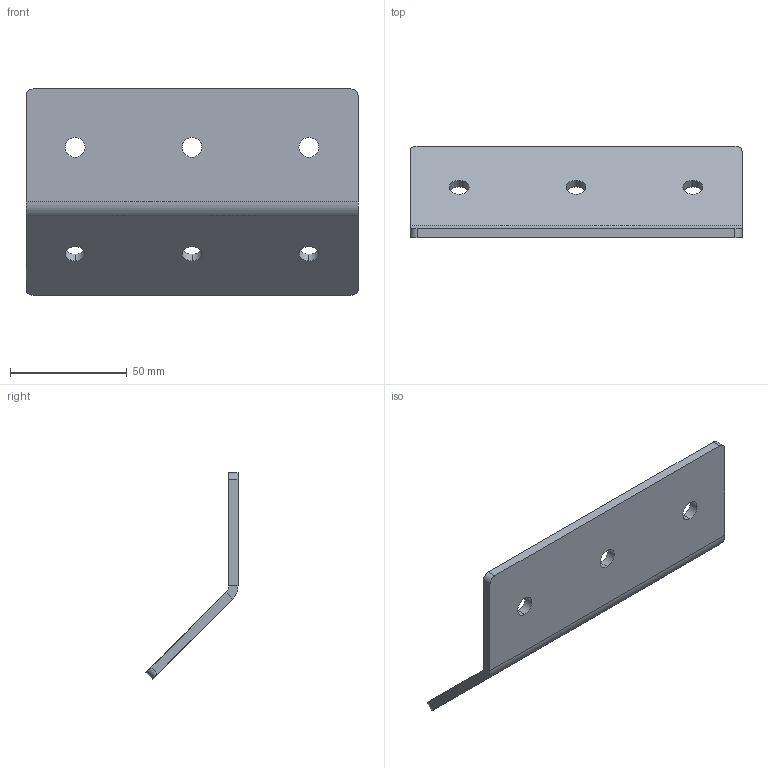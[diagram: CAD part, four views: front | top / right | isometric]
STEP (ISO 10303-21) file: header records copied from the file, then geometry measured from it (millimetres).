
FILE_DESCRIPTION (( 'STEP AP214' ), '1' );
FILE_NAME ('8450150s.STEP', '2022-06-13T12:32:44', ( 'Home' ), ( '' ), 'SwSTEP 2.0', 'SolidWorks 2020', '' );
FILE_SCHEMA (( 'AUTOMOTIVE_DESIGN' ));
Length unit declared in the file: millimetre
Products named in the file (1): 8450150s
Bounding box: 142 x 39.36 x 88.18 mm (x, y, z)
Volume: 56201.7 mm3; surface area: 30668.3 mm2
Topology: 1 solids, 1 shells, 30 faces, 76 edges, 48 vertices
Faces by surface type: cylinder 18, plane 12
Entity records: 970 total; most frequent: DIRECTION 174, CARTESIAN_POINT 155, ORIENTED_EDGE 152, EDGE_CURVE 76, AXIS2_PLACEMENT_3D 67, VERTEX_POINT 48, EDGE_LOOP 42, VECTOR 40
